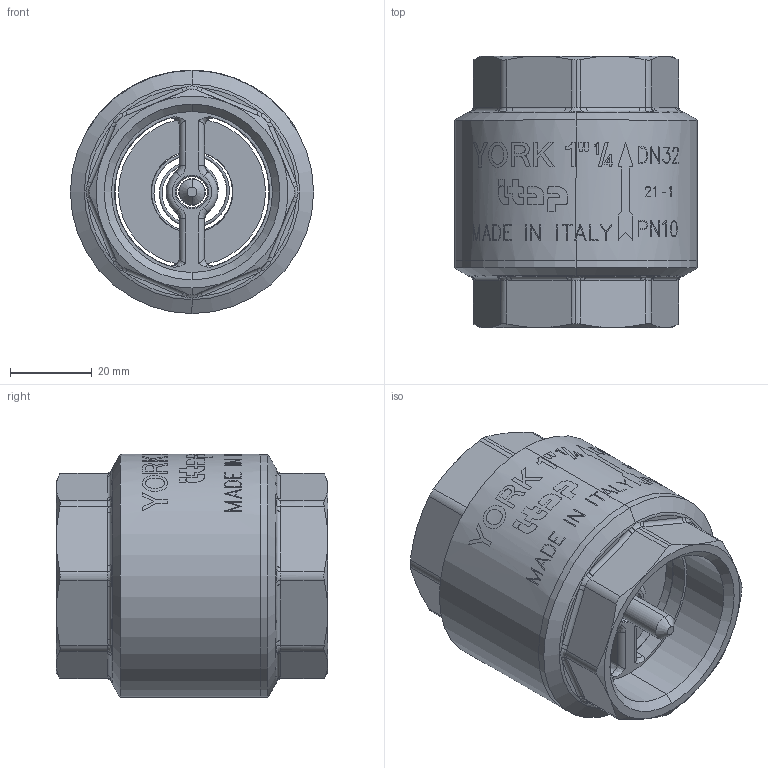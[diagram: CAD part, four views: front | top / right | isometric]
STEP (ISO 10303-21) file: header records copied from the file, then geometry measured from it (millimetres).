
FILE_DESCRIPTION (( 'STEP AP203' ), '1' );
FILE_NAME ('1030114.step', '2020-09-01T13:18:49', ( '' ), ( '' ), 'SwSTEP 2.0', 'SolidWorks 2018', '' );
FILE_SCHEMA (( 'CONFIG_CONTROL_DESIGN' ));
Length unit declared in the file: millimetre
Products named in the file (1): 1030114
Bounding box: 59.5 x 66.48 x 59.5 mm (x, y, z)
Surface area: 27320.4 mm2 (no closed solid volume)
Topology: 0 solids, 8 shells, 299 faces, 1260 edges, 1010 vertices
Faces by surface type: cylinder 109, bspline 82, plane 48, cone 40, torus 16, sphere 4
Entity records: 20920 total; most frequent: CARTESIAN_POINT 11514, ORIENTED_EDGE 2432, DIRECTION 1346, EDGE_CURVE 1260, VERTEX_POINT 1010, B_SPLINE_CURVE_WITH_KNOTS 678, AXIS2_PLACEMENT_3D 554, EDGE_LOOP 354
